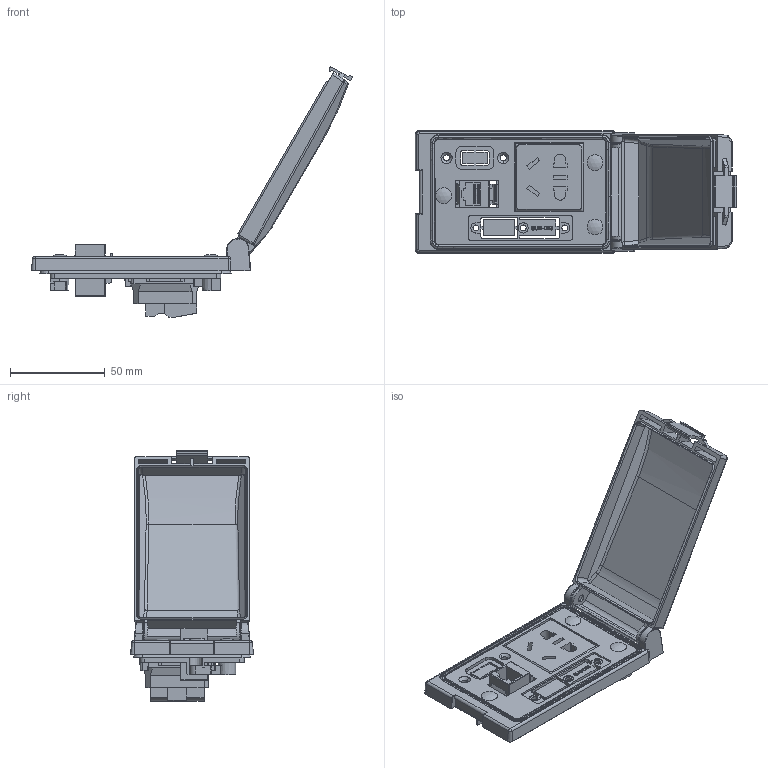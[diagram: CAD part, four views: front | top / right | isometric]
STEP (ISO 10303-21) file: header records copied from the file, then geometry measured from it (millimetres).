
FILE_DESCRIPTION (( 'STEP AP203' ), '1' );
FILE_NAME ('9145000.STEP', '2020-11-24T09:02:31', ( '' ), ( '' ), 'SwSTEP 2.0', 'SolidWorks 2016', '' );
FILE_SCHEMA (( 'CONFIG_CONTROL_DESIGN' ));
Length unit declared in the file: millimetre
Products named in the file (1): 9145000
Bounding box: 169.88 x 65 x 132.28 mm (x, y, z)
Volume: 85559.9 mm3; surface area: 62415.7 mm2
Topology: 7 solids, 7 shells, 1472 faces, 3953 edges, 2496 vertices
Faces by surface type: plane 686, cylinder 405, bspline 249, cone 69, sphere 34, torus 29
Entity records: 58782 total; most frequent: CARTESIAN_POINT 24636, ORIENTED_EDGE 7812, DIRECTION 5928, EDGE_CURVE 3906, VERTEX_POINT 2489, VECTOR 2268, LINE 2268, AXIS2_PLACEMENT_3D 1830
